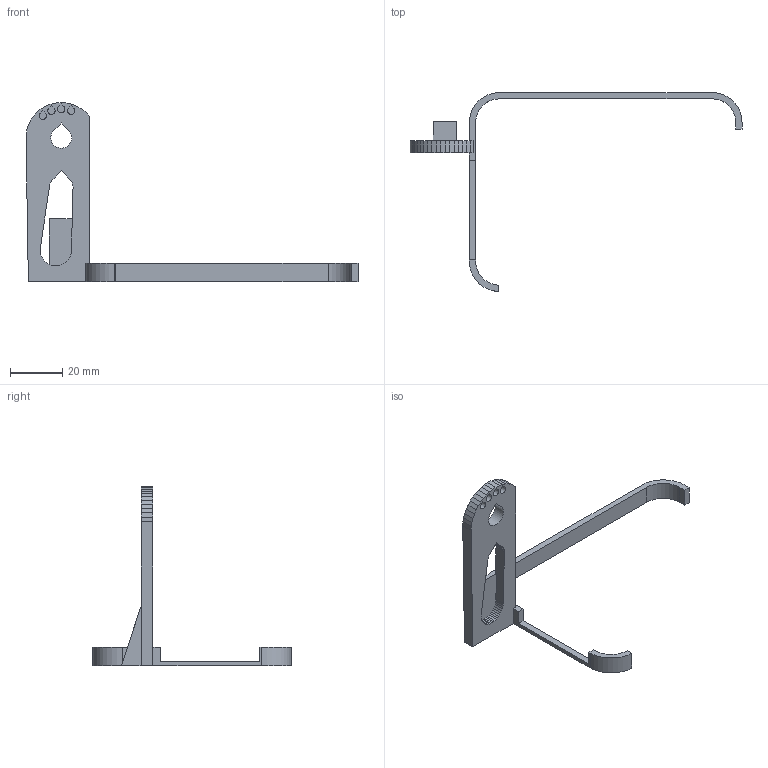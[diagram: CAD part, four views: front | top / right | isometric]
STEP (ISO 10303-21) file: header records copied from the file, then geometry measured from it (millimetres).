
FILE_DESCRIPTION(('Open CASCADE Model'),'2;1');
FILE_NAME('Open CASCADE Shape Model','2026-10-14T01:24:34',('Author'),( 'Open CASCADE'),'Open CASCADE STEP processor 8.0','build123d', 'Unknown');
FILE_SCHEMA(('AUTOMOTIVE_DESIGN { 1 0 10303 214 1 1 1 1 }'));
Length unit declared in the file: millimetre
Products named in the file (1): COMPOUND
Bounding box: 127.05 x 76.1 x 68.5 mm (x, y, z)
Volume: 8617.2 mm3; surface area: 7301.8 mm2
Topology: 1 solids, 1 shells, 107 faces, 306 edges, 204 vertices
Faces by surface type: plane 96, cylinder 11
Entity records: 7227 total; most frequent: CARTESIAN_POINT 1585, DIRECTION 881, LINE 615, VECTOR 615, ORIENTED_EDGE 612, PCURVE 612, DEFINITIONAL_REPRESENTATION 612, EDGE_CURVE 306
